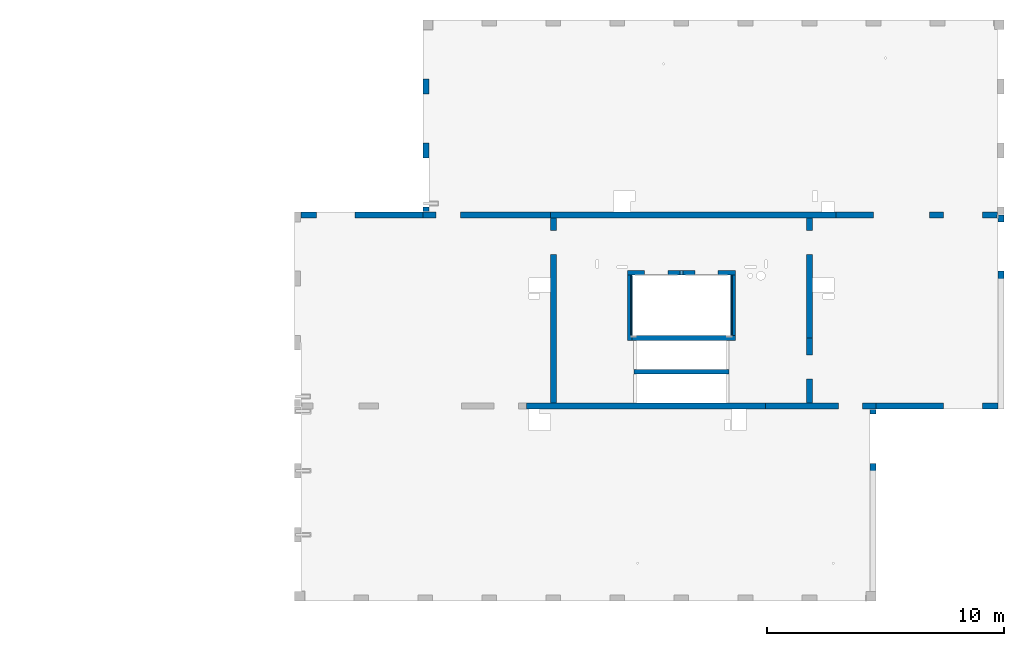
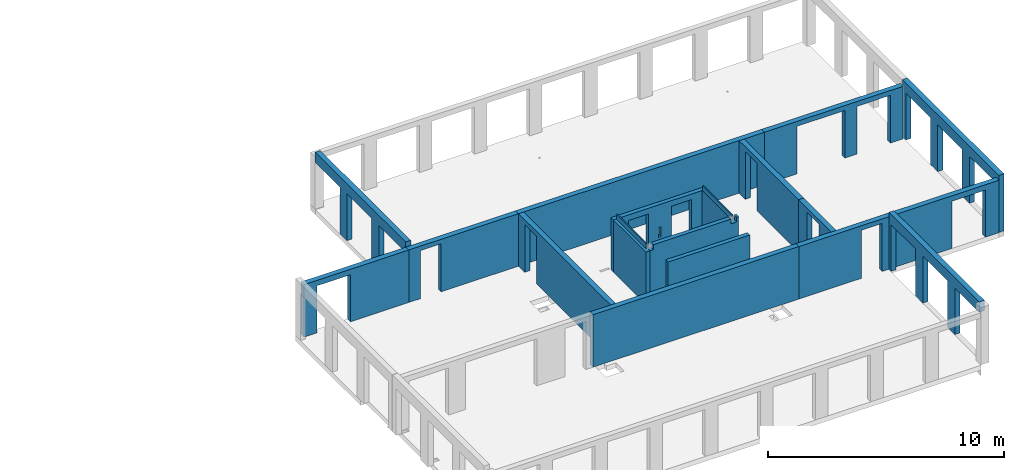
# One storey, part 8 of 13: 20 walls, 23 openings.
"""IFC2X3 building model written with IfcOpenShell, lengths in millimetres."""

from ifc_helpers import new_model, entity, si_unit, converted_unit, derived_unit, direction, frame, frame_2d, origin, origin_2d_with_axis, place, context, subcontext, project, spatial, polyline, rectangle, extrude, clip, bounded_halfspace, material, layer, layer_set, layer_usage, type_object, element, save


model = new_model("IFC2X3")

# Units and contexts
model_context = context("Model", 3, precision=0.01, world=origin(), true_north=direction((6.12303176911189e-17, 1.0)))
body_context = subcontext(model_context, "Body", "Model", "MODEL_VIEW")
ifc_project = project(units=[si_unit("LENGTHUNIT", "METRE", prefix="MILLI"), si_unit("AREAUNIT", "SQUARE_METRE"), si_unit("VOLUMEUNIT", "CUBIC_METRE"), converted_unit("PLANEANGLEUNIT", "DEGREE", entity("IfcRatioMeasure", 0.0174532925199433), si_unit("PLANEANGLEUNIT", "RADIAN"), dimensions=[0, 0, 0, 0, 0, 0, 0]), si_unit("MASSUNIT", "GRAM", prefix="KILO"), derived_unit("MASSDENSITYUNIT", [(si_unit("MASSUNIT", "GRAM", prefix="KILO"), 1), (si_unit("LENGTHUNIT", "METRE"), -3)]), si_unit("TIMEUNIT", "SECOND"), si_unit("FREQUENCYUNIT", "HERTZ"), si_unit("THERMODYNAMICTEMPERATUREUNIT", "DEGREE_CELSIUS"), derived_unit("THERMALTRANSMITTANCEUNIT", [(si_unit("MASSUNIT", "GRAM", prefix="KILO"), 1), (si_unit("THERMODYNAMICTEMPERATUREUNIT", "KELVIN"), -1), (si_unit("TIMEUNIT", "SECOND"), -3)]), derived_unit("VOLUMETRICFLOWRATEUNIT", [(si_unit("LENGTHUNIT", "METRE"), 3), (si_unit("TIMEUNIT", "SECOND"), -1)]), si_unit("ELECTRICCURRENTUNIT", "AMPERE"), si_unit("ELECTRICVOLTAGEUNIT", "VOLT"), si_unit("POWERUNIT", "WATT"), si_unit("FORCEUNIT", "NEWTON", prefix="KILO"), si_unit("ILLUMINANCEUNIT", "LUX"), si_unit("LUMINOUSFLUXUNIT", "LUMEN"), si_unit("LUMINOUSINTENSITYUNIT", "CANDELA"), derived_unit("USERDEFINED", [(si_unit("MASSUNIT", "GRAM", prefix="KILO"), -1), (si_unit("LENGTHUNIT", "METRE"), -2), (si_unit("TIMEUNIT", "SECOND"), 3), (si_unit("LUMINOUSFLUXUNIT", "LUMEN"), 1)]), derived_unit("LINEARVELOCITYUNIT", [(si_unit("LENGTHUNIT", "METRE"), 1), (si_unit("TIMEUNIT", "SECOND"), -1)]), si_unit("PRESSUREUNIT", "PASCAL"), derived_unit("USERDEFINED", [(si_unit("LENGTHUNIT", "METRE"), -2), (si_unit("MASSUNIT", "GRAM", prefix="KILO"), 1), (si_unit("TIMEUNIT", "SECOND"), -2)])], contexts=[model_context])

# Site, building, storey
site_placement = place(None, origin())
site = spatial("IfcSite", under=ifc_project, at=site_placement, Name="Default", CompositionType="ELEMENT")
building_placement = place(site_placement, origin())
building = spatial("IfcBuilding", under=site, at=building_placement, Name="niet gebruiken", CompositionType="ELEMENT")
storey_placement = place(building_placement, frame((0.0, 0.0, 60120.0)))
storey = spatial("IfcBuildingStorey", under=building, at=storey_placement, Name="20 twintigste verdieping", CompositionType="ELEMENT", Elevation=60120.0)

# Wall, opening
ifc_material_1 = material(Name="NLRS_f2_beton ihwg")
ifc_layer_1 = layer(ifc_material_1, 250.0)
ifc_layer_set_1 = layer_set([ifc_layer_1], Name="Basic Wall:NLRS_22.21_WA_beton ihwg d=250_gen")
ifc_layer_usage_1 = layer_usage(ifc_layer_set_1, "AXIS2", "NEGATIVE", 125.0)
wall_type_1 = type_object("IfcWallType", Name="Basic Wall:NLRS_22.21_WA_beton ihwg d=250_gen", PredefinedType="STANDARD", material=ifc_layer_set_1)
wall_1_placement = place(storey_placement, frame((75770.0, 45031.0, -90.0)))
wall_1 = element("IfcWallStandardCase", 1, at=wall_1_placement, inside=storey, type_object=wall_type_1, material=ifc_layer_usage_1, Name="Basic Wall:NLRS_22.21_WA_beton ihwg d=250_gen", ObjectType="Basic Wall:NLRS_22.21_WA_beton ihwg d=250_gen", context=body_context, shape_type="SweptSolid", body=[
    extrude(rectangle(XDim=5130.00000000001, YDim=249.999999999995, at=frame_2d((2565.00000000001, 0.0), x_axis=(-1.0, 0.0))), origin(), (0.0, 0.0, 1.0), 2719.99999999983),
])
opening_1_placement = place(wall_1_placement, origin())
element("IfcOpeningElement", 2, at=opening_1_placement, cuts=wall_1, Name="Basic Wall:NLRS_22.21_WA_beton ihwg d=250_gen", ObjectType="Opening", context=body_context, shape_type="SweptSolid", body=[
    extrude(rectangle(XDim=2440.0, YDim=1640.0, at=frame_2d((0.0, 4.37694325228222e-12), x_axis=(1.0, 0.0))), frame((1460.0, -1649.0, 1220.0), z_axis=(0.0, 1.0, 0.0), x_axis=(0.0, 0.0, 1.0)), (0.0, 0.0, 1.0), 3048.0),
])

ifc_layer_usage_2 = layer_usage(ifc_layer_set_1, "AXIS2", "NEGATIVE", 125.0)
wall_2_placement = place(storey_placement, frame((86400.0, 44906.0, -90.0), z_axis=(0.0, 0.0, 1.0), x_axis=(0.0, -1.0, 0.0)))
wall_2 = element("IfcWallStandardCase", 3, at=wall_2_placement, inside=storey, type_object=wall_type_1, material=ifc_layer_usage_2, Name="Basic Wall:NLRS_22.21_WA_beton ihwg d=250_gen", ObjectType="Basic Wall:NLRS_22.21_WA_beton ihwg d=250_gen", context=body_context, shape_type="SweptSolid", body=[
    extrude(rectangle(XDim=7799.99999999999, YDim=250.000000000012, at=frame_2d((3900.0, 0.0), x_axis=(-1.0, 0.0))), origin(), (0.0, 0.0, 1.0), 2719.99999999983),
])
opening_2_placement = place(wall_2_placement, origin())
element("IfcOpeningElement", 4, at=opening_2_placement, cuts=wall_2, Name="Basic Wall:NLRS_22.21_WA_beton ihwg d=250_gen", ObjectType="Opening", context=body_context, shape_type="SweptSolid", body=[
    extrude(rectangle(XDim=2470.0, YDim=1006.0, at=frame_2d((-4.43378667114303e-12, 0.0), x_axis=(1.0, 0.0))), frame((1027.0, -1649.0, 1235.0), z_axis=(0.0, 1.0, 0.0), x_axis=(0.0, 0.0, 1.0)), (0.0, 0.0, 1.0), 3048.0),
])

ifc_layer_usage_3 = layer_usage(ifc_layer_set_1, "AXIS2", "NEGATIVE", 125.0)
wall_3_placement = place(storey_placement, frame((97200.0, 44906.0, -90.0), z_axis=(0.0, 0.0, 1.0), x_axis=(0.0, -1.0, 0.0)))
wall_3 = element("IfcWallStandardCase", 5, at=wall_3_placement, inside=storey, type_object=wall_type_1, material=ifc_layer_usage_3, Name="Basic Wall:NLRS_22.21_WA_beton ihwg d=250_gen", ObjectType="Basic Wall:NLRS_22.21_WA_beton ihwg d=250_gen", context=body_context, shape_type="SweptSolid", body=[
    extrude(rectangle(XDim=5050.0, YDim=250.000000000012, at=frame_2d((2525.0, -3.05533376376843e-12), x_axis=(-1.0, 0.0))), origin(), (0.0, 0.0, 1.0), 2719.99999999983),
])
opening_3_placement = place(wall_3_placement, origin())
element("IfcOpeningElement", 6, at=opening_3_placement, cuts=wall_3, Name="Basic Wall:NLRS_22.21_WA_beton ihwg d=250_gen", ObjectType="Opening", context=body_context, shape_type="SweptSolid", body=[
    extrude(rectangle(XDim=2470.0, YDim=1006.0, at=frame_2d((-4.43378667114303e-12, 0.0), x_axis=(1.0, 0.0))), frame((1027.0, -1649.0, 1235.0), z_axis=(0.0, 1.0, 0.0), x_axis=(0.0, 0.0, 1.0)), (0.0, 0.0, 1.0), 3048.0),
])

ifc_layer_usage_4 = layer_usage(ifc_layer_set_1, "AXIS2", "NEGATIVE", 125.0)
wall_4_placement = place(storey_placement, frame((80900.0, 45031.0, -90.0)))
wall_4 = element("IfcWallStandardCase", 7, at=wall_4_placement, inside=storey, type_object=wall_type_1, material=ifc_layer_usage_4, Name="Basic Wall:NLRS_22.21_WA_beton ihwg d=250_gen", ObjectType="Basic Wall:NLRS_22.21_WA_beton ihwg d=250_gen", context=body_context, shape_type="SweptSolid", body=[
    extrude(rectangle(XDim=5374.99999999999, YDim=249.999999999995, at=frame_2d((2687.5, 0.0), x_axis=(-1.0, 0.0))), origin(), (0.0, 0.0, 1.0), 2719.99999999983),
])
opening_4_placement = place(wall_4_placement, origin())
element("IfcOpeningElement", 8, at=opening_4_placement, cuts=wall_4, Name="Basic Wall:NLRS_22.21_WA_beton ihwg d=250_gen", ObjectType="Opening", context=body_context, shape_type="SweptSolid", body=[
    extrude(rectangle(XDim=2492.00000000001, YDim=1021.99999999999, at=frame_2d((8.66862137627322e-12, 8.75388650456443e-12), x_axis=(0.0, 1.0))), frame((1075.0, -1399.0, 1246.0), z_axis=(0.0, 1.0, 0.0), x_axis=(-1.0, 0.0, 0.0)), (0.0, 0.0, 1.0), 3048.0),
])

ifc_layer_usage_5 = layer_usage(ifc_layer_set_1, "AXIS2", "NEGATIVE", 125.0)
wall_5_placement = place(storey_placement, frame((100000.0, 36981.0, -90.0)))
wall_5 = element("IfcWallStandardCase", 9, at=wall_5_placement, inside=storey, type_object=wall_type_1, material=ifc_layer_usage_5, Name="Basic Wall:NLRS_22.21_WA_beton ihwg d=250_gen", ObjectType="Basic Wall:NLRS_22.21_WA_beton ihwg d=250_gen", context=body_context, shape_type="SweptSolid", body=[
    extrude(rectangle(XDim=5149.99999999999, YDim=250.000000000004, at=frame_2d((2575.0, 0.0), x_axis=(-1.0, 0.0))), origin(), (0.0, 0.0, 1.0), 2719.99999999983),
])
opening_5_placement = place(wall_5_placement, origin())
element("IfcOpeningElement", 10, at=opening_5_placement, cuts=wall_5, Name="Basic Wall:NLRS_22.21_WA_beton ihwg d=250_gen", ObjectType="Opening", context=body_context, shape_type="SweptSolid", body=[
    extrude(rectangle(XDim=2440.0, YDim=1639.99999999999, at=frame_2d((8.69704308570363e-12, 0.0), x_axis=(0.0, 1.0))), frame((3670.0, -1399.0, 1220.0), z_axis=(0.0, 1.0, 0.0), x_axis=(-1.0, 0.0, 0.0)), (0.0, 0.0, 1.0), 3048.0),
])

# Wall
ifc_layer_usage_6 = layer_usage(ifc_layer_set_1, "AXIS2", "NEGATIVE", 125.0)
wall_6_placement = place(storey_placement, frame((86275.0, 45031.0, -90.0)))
element("IfcWallStandardCase", 11, at=wall_6_placement, inside=storey, type_object=wall_type_1, material=ifc_layer_usage_6, Name="Basic Wall:NLRS_22.21_WA_beton ihwg d=250_gen", ObjectType="Basic Wall:NLRS_22.21_WA_beton ihwg d=250_gen", context=body_context, shape_type="SweptSolid", body=[
    extrude(rectangle(XDim=12050.0000000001, YDim=249.999999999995, at=frame_2d((6025.00000000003, 0.0), x_axis=(-1.0, 0.0))), origin(), (0.0, 0.0, 1.0), 2719.99999999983),
])

# Wall, openings
ifc_layer_usage_7 = layer_usage(ifc_layer_set_1, "AXIS2", "NEGATIVE", 125.0)
wall_7_placement = place(storey_placement, frame((98325.0, 45031.0, -90.0)))
wall_7 = element("IfcWallStandardCase", 12, at=wall_7_placement, inside=storey, type_object=wall_type_1, material=ifc_layer_usage_7, Name="Basic Wall:NLRS_22.21_WA_beton ihwg d=250_gen", ObjectType="Basic Wall:NLRS_22.21_WA_beton ihwg d=250_gen", context=body_context, shape_type="Clipping", body=[
    clip(clip(extrude(rectangle(XDim=6804.99999999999, YDim=249.999999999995, at=frame_2d((3402.5, 0.0), x_axis=(-1.0, 0.0))), origin(), (0.0, 0.0, 1.0), 2719.99999999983), bounded_halfspace(frame((6785.00003298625, 15.0, 2720.0), z_axis=(0.0, 1.0, 0.0), x_axis=(-1.0, 0.0, 0.0)), True, frame((6785.00003298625, 15.0, 2720.0), z_axis=(0.0, 1.0, 0.0), x_axis=(-1.0, 0.0, 0.0)), polyline([(0.0, 0.0), (-19.9999670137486, 0.0), (-19.9999670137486, -2720.0), (0.0, -2720.0), (0.0, 0.0)]))), bounded_halfspace(frame((6785.00003298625, 15.0, 0.0), z_axis=(-1.0, 0.0, 0.0), x_axis=(0.0, 1.0, 0.0)), True, frame((6785.00003298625, 15.0, 0.0), z_axis=(-1.0, 0.0, 0.0), x_axis=(0.0, 1.0, 0.0)), polyline([(0.0, 0.0), (-140.0, 0.0), (-140.0, -2720.0), (0.0, -2720.0), (0.0, 0.0)]))),
])
opening_6_placement = place(wall_7_placement, origin())
element("IfcOpeningElement", 13, at=opening_6_placement, cuts=wall_7, Name="Basic Wall:NLRS_22.21_WA_beton ihwg d=250_gen", ObjectType="Opening", context=body_context, shape_type="SweptSolid", body=[
    extrude(rectangle(XDim=2470.0, YDim=2350.0, at=frame_2d((4.43378667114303e-12, 8.64019966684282e-12), x_axis=(1.0, 0.0))), frame((2750.0, -1649.0, 1235.0), z_axis=(0.0, 1.0, 0.0), x_axis=(0.0, 0.0, 1.0)), (0.0, 0.0, 1.0), 3048.0),
])
opening_7_placement = place(wall_7_placement, origin())
element("IfcOpeningElement", 14, at=opening_7_placement, cuts=wall_7, Name="Basic Wall:NLRS_22.21_WA_beton ihwg d=250_gen", ObjectType="Opening", context=body_context, shape_type="SweptSolid", body=[
    extrude(rectangle(XDim=2470.0, YDim=1640.00000000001, at=frame_2d((4.43378667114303e-12, 0.0), x_axis=(1.0, 0.0))), frame((5345.0, -1649.0, 1235.0), z_axis=(0.0, 1.0, 0.0), x_axis=(0.0, 0.0, 1.0)), (0.0, 0.0, 1.0), 3048.0),
])

# Wall, opening
ifc_layer_usage_8 = layer_usage(ifc_layer_set_1, "AXIS2", "NEGATIVE", 125.0)
wall_8_placement = place(storey_placement, frame((97200.0, 39856.0, -90.0), z_axis=(0.0, 0.0, 1.0), x_axis=(0.0, -1.0, 0.0)))
wall_8 = element("IfcWallStandardCase", 15, at=wall_8_placement, inside=storey, type_object=wall_type_1, material=ifc_layer_usage_8, Name="Basic Wall:NLRS_22.21_WA_beton ihwg d=250_gen", ObjectType="Basic Wall:NLRS_22.21_WA_beton ihwg d=250_gen", context=body_context, shape_type="SweptSolid", body=[
    extrude(rectangle(XDim=2749.99999999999, YDim=250.000000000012, at=frame_2d((1375.0, 3.05533376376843e-12), x_axis=(-1.0, 0.0))), origin(), (0.0, 0.0, 1.0), 2719.99999999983),
])
opening_8_placement = place(wall_8_placement, origin())
element("IfcOpeningElement", 16, at=opening_8_placement, cuts=wall_8, Name="Basic Wall:NLRS_22.21_WA_beton ihwg d=250_gen", ObjectType="Opening", context=body_context, shape_type="SweptSolid", body=[
    extrude(rectangle(XDim=2492.00000000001, YDim=1022.0, at=frame_2d((0.0, -2.1600499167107e-12), x_axis=(1.0, 0.0))), frame((1225.0, -1649.0, 1246.0), z_axis=(0.0, 1.0, 0.0), x_axis=(0.0, 0.0, 1.0)), (0.0, 0.0, 1.0), 3048.0),
])

ifc_layer_usage_9 = layer_usage(ifc_layer_set_1, "AXIS2", "NEGATIVE", 125.0)
wall_9_placement = place(storey_placement, frame((95350.0, 36981.0, -90.0)))
wall_9 = element("IfcWallStandardCase", 17, at=wall_9_placement, inside=storey, type_object=wall_type_1, material=ifc_layer_usage_9, Name="Basic Wall:NLRS_22.21_WA_beton ihwg d=250_gen", ObjectType="Basic Wall:NLRS_22.21_WA_beton ihwg d=250_gen", context=body_context, shape_type="SweptSolid", body=[
    extrude(rectangle(XDim=4650.00000000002, YDim=250.000000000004, at=frame_2d((2325.00000000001, 0.0), x_axis=(-1.0, 0.0))), origin(), (0.0, 0.0, 1.0), 2719.99999999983),
])
opening_9_placement = place(wall_9_placement, origin())
element("IfcOpeningElement", 18, at=opening_9_placement, cuts=wall_9, Name="Basic Wall:NLRS_22.21_WA_beton ihwg d=250_gen", ObjectType="Opening", context=body_context, shape_type="SweptSolid", body=[
    extrude(rectangle(XDim=2492.00000000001, YDim=1021.99999999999, at=frame_2d((0.0, 8.66862137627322e-12), x_axis=(1.0, 0.0))), frame((3575.0, -1649.0, 1246.0), z_axis=(0.0, 1.0, 0.0), x_axis=(0.0, 0.0, 1.0)), (0.0, 0.0, 1.0), 3048.0),
])

# Wall
ifc_layer_usage_10 = layer_usage(ifc_layer_set_1, "AXIS2", "NEGATIVE", 125.0)
wall_10_placement = place(storey_placement, frame((85275.0, 36981.0, -90.0)))
element("IfcWallStandardCase", 19, at=wall_10_placement, inside=storey, type_object=wall_type_1, material=ifc_layer_usage_10, Name="Basic Wall:NLRS_22.21_WA_beton ihwg d=250_gen", ObjectType="Basic Wall:NLRS_22.21_WA_beton ihwg d=250_gen", context=body_context, shape_type="SweptSolid", body=[
    extrude(rectangle(XDim=10075.0, YDim=250.000000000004, at=frame_2d((5037.5, 0.0), x_axis=(-1.0, 0.0))), origin(), (0.0, 0.0, 1.0), 2719.99999999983),
])

# Wall, openings
ifc_material_2 = material(Name="NLRS_f2_beton prefab")
ifc_layer_2 = layer(ifc_material_2, 250.0)
ifc_layer_set_2 = layer_set([ifc_layer_2], Name="Basic Wall:NLRS_21.21_WA_beton prefab d=250_gen")
ifc_layer_usage_11 = layer_usage(ifc_layer_set_2, "AXIS2", "NEGATIVE", 125.0)
wall_type_2 = type_object("IfcWallType", Name="Basic Wall:NLRS_21.21_WA_beton prefab d=250_gen", PredefinedType="STANDARD", material=ifc_layer_set_2)
wall_11_placement = place(storey_placement, frame((81025.0, 52846.0, -70.0), z_axis=(0.0, 0.0, 1.0), x_axis=(0.0, -1.0, 0.0)))
wall_11 = element("IfcWallStandardCase", 20, at=wall_11_placement, inside=storey, type_object=wall_type_2, material=ifc_layer_usage_11, Name="Basic Wall:NLRS_21.21_WA_beton prefab d=250_gen", ObjectType="Basic Wall:NLRS_21.21_WA_beton prefab d=250_gen", context=body_context, shape_type="SweptSolid", body=[
    extrude(rectangle(XDim=7670.00000000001, YDim=250.000000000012, at=frame_2d((3835.0, 0.0), x_axis=(-1.0, 0.0))), origin(), (0.0, 0.0, 1.0), 2950.00000000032),
])
opening_10_placement = place(wall_11_placement, origin())
element("IfcOpeningElement", 21, at=opening_10_placement, cuts=wall_11, Name="Basic Wall:NLRS_21.21_WA_beton prefab d=250_gen", ObjectType="Opening", context=body_context, shape_type="SweptSolid", body=[
    extrude(rectangle(XDim=2420.0, YDim=2080.0, at=frame_2d((0.0, 0.0), x_axis=(0.0, 1.0))), frame((1040.0, -1399.0, 1210.0), z_axis=(0.0, 1.0, 0.0), x_axis=(-1.0, 0.0, 0.0)), (0.0, 0.0, 1.0), 3048.0),
])
opening_11_placement = place(wall_11_placement, origin())
element("IfcOpeningElement", 22, at=opening_11_placement, cuts=wall_11, Name="Basic Wall:NLRS_21.21_WA_beton prefab d=250_gen", ObjectType="Opening", context=body_context, shape_type="SweptSolid", body=[
    extrude(rectangle(XDim=2420.0, YDim=2080.0, at=frame_2d((0.0, 0.0), x_axis=(0.0, 1.0))), frame((3740.0, -1399.0, 1210.0), z_axis=(0.0, 1.0, 0.0), x_axis=(-1.0, 0.0, 0.0)), (0.0, 0.0, 1.0), 3048.0),
])
opening_12_placement = place(wall_11_placement, origin())
element("IfcOpeningElement", 23, at=opening_12_placement, cuts=wall_11, Name="Basic Wall:NLRS_21.21_WA_beton prefab d=250_gen", ObjectType="Opening", context=body_context, shape_type="SweptSolid", body=[
    extrude(rectangle(XDim=2420.0, YDim=2080.0, at=frame_2d((0.0, 0.0), x_axis=(0.0, 1.0))), frame((6440.0, -1399.0, 1210.0), z_axis=(0.0, 1.0, 0.0), x_axis=(-1.0, 0.0, 0.0)), (0.0, 0.0, 1.0), 3048.0),
])

ifc_layer_usage_12 = layer_usage(ifc_layer_set_2, "AXIS2", "NEGATIVE", 125.0)
wall_12_placement = place(storey_placement, frame((105275.0, 45046.0, -70.0), z_axis=(0.0, 0.0, 1.0), x_axis=(0.0, -1.0, 0.0)))
wall_12 = element("IfcWallStandardCase", 24, at=wall_12_placement, inside=storey, type_object=wall_type_2, material=ifc_layer_usage_12, Name="Basic Wall:NLRS_21.21_WA_beton prefab d=250_gen", ObjectType="Basic Wall:NLRS_21.21_WA_beton prefab d=250_gen", context=body_context, shape_type="SweptSolid", body=[
    extrude(rectangle(XDim=8189.99999999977, YDim=250.000000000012, at=frame_2d((4094.99999999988, 0.0), x_axis=(-1.0, 0.0))), origin(), (0.0, 0.0, 1.0), 2950.00000000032),
])
opening_13_placement = place(wall_12_placement, origin())
element("IfcOpeningElement", 25, at=opening_13_placement, cuts=wall_12, Name="Basic Wall:NLRS_21.21_WA_beton prefab d=250_gen", ObjectType="Opening", context=body_context, shape_type="SweptSolid", body=[
    extrude(rectangle(XDim=2420.0, YDim=2080.0, at=frame_2d((0.0, 0.0), x_axis=(0.0, 1.0))), frame((1340.0, -1399.0, 1210.0), z_axis=(0.0, 1.0, 0.0), x_axis=(-1.0, 0.0, 0.0)), (0.0, 0.0, 1.0), 3048.0),
])
opening_14_placement = place(wall_12_placement, origin())
element("IfcOpeningElement", 26, at=opening_14_placement, cuts=wall_12, Name="Basic Wall:NLRS_21.21_WA_beton prefab d=250_gen", ObjectType="Opening", context=body_context, shape_type="SweptSolid", body=[
    extrude(rectangle(XDim=2420.0, YDim=2080.0, at=frame_2d((0.0, 0.0), x_axis=(0.0, 1.0))), frame((4040.0, -1399.0, 1210.0), z_axis=(0.0, 1.0, 0.0), x_axis=(-1.0, 0.0, 0.0)), (0.0, 0.0, 1.0), 3048.0),
])
opening_15_placement = place(wall_12_placement, origin())
element("IfcOpeningElement", 27, at=opening_15_placement, cuts=wall_12, Name="Basic Wall:NLRS_21.21_WA_beton prefab d=250_gen", ObjectType="Opening", context=body_context, shape_type="SweptSolid", body=[
    extrude(rectangle(XDim=2420.0, YDim=2080.0, at=frame_2d((0.0, 0.0), x_axis=(0.0, 1.0))), frame((6740.0, -1399.0, 1210.0), z_axis=(0.0, 1.0, 0.0), x_axis=(-1.0, 0.0, 0.0)), (0.0, 0.0, 1.0), 3048.0),
])

ifc_layer_usage_13 = layer_usage(ifc_layer_set_2, "AXIS2", "NEGATIVE", 125.0)
wall_13_placement = place(storey_placement, frame((99875.0, 29166.0, -70.0), z_axis=(0.0, 0.0, 1.0), x_axis=(0.0, 1.0, 0.0)))
wall_13 = element("IfcWallStandardCase", 28, at=wall_13_placement, inside=storey, type_object=wall_type_2, material=ifc_layer_usage_13, Name="Basic Wall:NLRS_21.21_WA_beton prefab d=250_gen", ObjectType="Basic Wall:NLRS_21.21_WA_beton prefab d=250_gen", context=body_context, shape_type="SweptSolid", body=[
    extrude(rectangle(XDim=7669.99999999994, YDim=250.000000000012, at=frame_2d((3834.99999999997, 0.0), x_axis=(-1.0, 0.0))), origin(), (0.0, 0.0, 1.0), 2949.99999999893),
])
opening_16_placement = place(wall_13_placement, origin())
element("IfcOpeningElement", 29, at=opening_16_placement, cuts=wall_13, Name="Basic Wall:NLRS_21.21_WA_beton prefab d=250_gen", ObjectType="Opening", context=body_context, shape_type="SweptSolid", body=[
    extrude(rectangle(XDim=2420.0, YDim=2080.0, at=frame_2d((2.1600499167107e-12, 0.0), x_axis=(0.0, 1.0))), frame((1040.0, -1399.0, 1210.0), z_axis=(0.0, 1.0, 0.0), x_axis=(-1.0, 0.0, 0.0)), (0.0, 0.0, 1.0), 3048.0),
])
opening_17_placement = place(wall_13_placement, origin())
element("IfcOpeningElement", 30, at=opening_17_placement, cuts=wall_13, Name="Basic Wall:NLRS_21.21_WA_beton prefab d=250_gen", ObjectType="Opening", context=body_context, shape_type="SweptSolid", body=[
    extrude(rectangle(XDim=2420.0, YDim=2080.0, at=frame_2d((2.1600499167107e-12, 0.0), x_axis=(0.0, 1.0))), frame((6440.0, -1399.0, 1210.0), z_axis=(0.0, 1.0, 0.0), x_axis=(-1.0, 0.0, 0.0)), (0.0, 0.0, 1.0), 3048.0),
])
opening_18_placement = place(wall_13_placement, origin())
element("IfcOpeningElement", 31, at=opening_18_placement, cuts=wall_13, Name="Basic Wall:NLRS_21.21_WA_beton prefab d=250_gen", ObjectType="Opening", context=body_context, shape_type="SweptSolid", body=[
    extrude(rectangle(XDim=2420.0, YDim=2080.0, at=frame_2d((2.1600499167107e-12, 0.0), x_axis=(0.0, 1.0))), frame((3740.0, -1399.0, 1210.0), z_axis=(0.0, 1.0, 0.0), x_axis=(-1.0, 0.0, 0.0)), (0.0, 0.0, 1.0), 3048.0),
])

# Wall
ifc_layer_3 = layer(ifc_material_2, 200.0)
ifc_layer_set_3 = layer_set([ifc_layer_3], Name="Basic Wall:NLRS_21.21_WA_beton prefab d=200_gen")
ifc_layer_usage_14 = layer_usage(ifc_layer_set_3, "AXIS2", "NEGATIVE", 100.0)
wall_type_3 = type_object("IfcWallType", Name="Basic Wall:NLRS_21.21_WA_beton prefab d=200_gen", PredefinedType="STANDARD", material=ifc_layer_set_3)
wall_14_placement = place(storey_placement, frame((89800.0, 38426.0, -70.0)))
element("IfcWallStandardCase", 32, at=wall_14_placement, inside=storey, type_object=wall_type_3, material=ifc_layer_usage_14, Name="Basic Wall:NLRS_21.21_WA_beton prefab d=200_gen", ObjectType="Basic Wall:NLRS_21.21_WA_beton prefab d=200_gen", context=body_context, shape_type="SweptSolid", body=[
    extrude(rectangle(XDim=3999.99999999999, YDim=199.999999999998, at=frame_2d((2000.0, 0.0), x_axis=(-1.0, 0.0))), origin(), (0.0, 0.0, 1.0), 2950.00000000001),
])

# Wall, openings
ifc_layer_4 = layer(ifc_material_2, 200.0)
ifc_layer_set_4 = layer_set([ifc_layer_4], Name="Basic Wall:NLRS_22.21_WA_beton prefab d=200_gen")
ifc_layer_usage_15 = layer_usage(ifc_layer_set_4, "AXIS2", "NEGATIVE", 100.0)
wall_type_4 = type_object("IfcWallType", Name="Basic Wall:NLRS_22.21_WA_beton prefab d=200_gen", PredefinedType="STANDARD", material=ifc_layer_set_4)
wall_15_placement = place(storey_placement, frame((89525.0, 42596.0, -70.0)))
wall_15 = element("IfcWallStandardCase", 33, at=wall_15_placement, inside=storey, type_object=wall_type_4, material=ifc_layer_usage_15, Name="Basic Wall:NLRS_22.21_WA_beton prefab d=200_gen", ObjectType="Basic Wall:NLRS_22.21_WA_beton prefab d=200_gen", context=body_context, shape_type="SweptSolid", body=[
    extrude(rectangle(XDim=4550.00000000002, YDim=200.000000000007, at=frame_2d((2275.00000000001, 7.8159700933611e-13), x_axis=(-1.0, 0.0))), origin(), (0.0, 0.0, 1.0), 2700.00000000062),
])
opening_19_placement = place(wall_15_placement, origin())
element("IfcOpeningElement", 34, at=opening_19_placement, cuts=wall_15, Name="Basic Wall:NLRS_22.21_WA_beton prefab d=200_gen", ObjectType="Opening", context=body_context, shape_type="SweptSolid", body=[
    extrude(rectangle(XDim=2430.0, YDim=980.000000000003, at=frame_2d((0.0, -8.66862137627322e-12), x_axis=(1.0, 0.0))), frame((1219.99984910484, -1624.0, 1195.0), z_axis=(0.0, 1.0, 0.0), x_axis=(0.0, 0.0, 1.0)), (0.0, 0.0, 1.0), 3048.0),
])
opening_20_placement = place(wall_15_placement, origin())
element("IfcOpeningElement", 35, at=opening_20_placement, cuts=wall_15, Name="Basic Wall:NLRS_22.21_WA_beton prefab d=200_gen", ObjectType="Opening", context=body_context, shape_type="SweptSolid", body=[
    extrude(rectangle(XDim=2430.0, YDim=980.000000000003, at=frame_2d((0.0, -8.66862137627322e-12), x_axis=(1.0, 0.0))), frame((3329.99984910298, -1624.0, 1195.0), z_axis=(0.0, 1.0, 0.0), x_axis=(0.0, 0.0, 1.0)), (0.0, 0.0, 1.0), 3048.0),
])
opening_21_placement = place(wall_15_placement, origin())
element("IfcOpeningElement", 36, at=opening_21_placement, cuts=wall_15, Name="Basic Wall:NLRS_22.21_WA_beton prefab d=200_gen", ObjectType="Opening", context=body_context, shape_type="SweptSolid", body=[
    extrude(rectangle(XDim=505.000000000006, YDim=135.000000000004, at=frame_2d((-4.33431068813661e-12, -8.66151594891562e-12), x_axis=(1.0, 0.0))), frame((2275.0, -1624.0, 1272.50000000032), z_axis=(0.0, 1.0, 0.0), x_axis=(0.0, 0.0, 1.0)), (0.0, 0.0, 1.0), 3048.0),
])

# Wall
ifc_layer_usage_16 = layer_usage(ifc_layer_set_4, "AXIS2", "NEGATIVE", 100.0)
wall_16_placement = place(storey_placement, frame((89625.0, 42496.0, -70.0), z_axis=(0.0, 0.0, 1.0), x_axis=(0.0, -1.0, 0.0)))
element("IfcWallStandardCase", 37, at=wall_16_placement, inside=storey, type_object=wall_type_4, material=ifc_layer_usage_16, Name="Basic Wall:NLRS_22.21_WA_beton prefab d=200_gen", ObjectType="Basic Wall:NLRS_22.21_WA_beton prefab d=200_gen", context=body_context, shape_type="SweptSolid", body=[
    extrude(rectangle(XDim=2749.99999999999, YDim=199.999999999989, at=frame_2d((1375.0, 0.0), x_axis=(-1.0, 0.0))), origin(), (0.0, 0.0, 1.0), 2700.00000000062),
])

# Wall, openings
ifc_layer_usage_17 = layer_usage(ifc_layer_set_4, "AXIS2", "NEGATIVE", 100.0)
wall_17_placement = place(storey_placement, frame((94075.0, 39846.0, -70.0), z_axis=(0.0, 0.0, 1.0), x_axis=(-1.0, 0.0, 0.0)))
wall_17 = element("IfcWallStandardCase", 38, at=wall_17_placement, inside=storey, type_object=wall_type_4, material=ifc_layer_usage_17, Name="Basic Wall:NLRS_22.21_WA_beton prefab d=200_gen", ObjectType="Basic Wall:NLRS_22.21_WA_beton prefab d=200_gen", context=body_context, shape_type="SweptSolid", body=[
    extrude(rectangle(XDim=4350.00000000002, YDim=200.000000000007, at=frame_2d((2175.00000000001, 0.0), x_axis=(-1.0, 0.0))), origin(), (0.0, 0.0, 1.0), 2950.00000000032),
])
opening_22_placement = place(wall_17_placement, origin())
element("IfcOpeningElement", 39, at=opening_22_placement, cuts=wall_17, Name="Basic Wall:NLRS_22.21_WA_beton prefab d=200_gen", ObjectType="Opening", context=body_context, shape_type="SweptSolid", body=[
    extrude(rectangle(XDim=249.999999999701, YDim=274.999934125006, at=origin_2d_with_axis()), frame((4312.50003293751, 100.0, 2825.0), z_axis=(0.0, -1.0, 0.0), x_axis=(0.0, 0.0, 1.0)), (0.0, 0.0, 1.0), 200.0),
])
opening_23_placement = place(wall_17_placement, origin())
element("IfcOpeningElement", 40, at=opening_23_placement, cuts=wall_17, Name="Basic Wall:NLRS_22.21_WA_beton prefab d=200_gen", ObjectType="Opening", context=body_context, shape_type="SweptSolid", body=[
    extrude(rectangle(XDim=249.999999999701, YDim=275.000032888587, at=frame_2d((0.0, 0.0), x_axis=(0.0, 1.0))), frame((237.500016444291, 100.0, 2825.0), z_axis=(0.0, -1.0, 0.0), x_axis=(-1.0, 0.0, 0.0)), (0.0, 0.0, 1.0), 200.0),
])

# Walls
ifc_layer_usage_18 = layer_usage(ifc_layer_set_4, "AXIS2", "NEGATIVE", 100.0)
wall_18_placement = place(storey_placement, frame((93975.0, 39946.0, -70.0), z_axis=(0.0, 0.0, 1.0), x_axis=(0.0, 1.0, 0.0)))
element("IfcWallStandardCase", 41, at=wall_18_placement, inside=storey, type_object=wall_type_4, material=ifc_layer_usage_18, Name="Basic Wall:NLRS_22.21_WA_beton prefab d=200_gen", ObjectType="Basic Wall:NLRS_22.21_WA_beton prefab d=200_gen", context=body_context, shape_type="SweptSolid", body=[
    extrude(rectangle(XDim=2549.99999999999, YDim=199.999999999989, at=frame_2d((1275.0, 0.0), x_axis=(-1.0, 0.0))), origin(), (0.0, 0.0, 1.0), 2700.00000000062),
])
ifc_layer_5 = layer(ifc_material_2, 60.0)
ifc_layer_set_5 = layer_set([ifc_layer_5], Name="Basic Wall:NLRS_22.21_WA_beton prefab d=60_gen")
ifc_layer_usage_19 = layer_usage(ifc_layer_set_5, "AXIS2", "NEGATIVE", 30.0)
wall_type_5 = type_object("IfcWallType", Name="Basic Wall:NLRS_22.21_WA_beton prefab d=60_gen", PredefinedType="STANDARD", material=ifc_layer_set_5)
wall_19_placement = place(storey_placement, frame((89695.0, 42476.0, 2630.0), z_axis=(0.0, 0.0, 1.0), x_axis=(0.0, -1.0, 0.0)))
element("IfcWallStandardCase", 42, at=wall_19_placement, inside=storey, type_object=wall_type_5, material=ifc_layer_usage_19, Name="Basic Wall:NLRS_22.21_WA_beton prefab d=60_gen", ObjectType="Basic Wall:NLRS_22.21_WA_beton prefab d=60_gen", context=body_context, shape_type="SweptSolid", body=[
    extrude(rectangle(XDim=2510.00000000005, YDim=59.9999999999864, at=frame_2d((1255.00000000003, 0.0), x_axis=(-1.0, 0.0))), origin(), (0.0, 0.0, 1.0), 250.000000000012),
])
ifc_layer_usage_20 = layer_usage(ifc_layer_set_5, "AXIS2", "POSITIVE", -30.0)
wall_20_placement = place(storey_placement, frame((93905.0, 42476.0, 2630.0), z_axis=(0.0, 0.0, 1.0), x_axis=(0.0, -1.0, 0.0)))
element("IfcWallStandardCase", 43, at=wall_20_placement, inside=storey, type_object=wall_type_5, material=ifc_layer_usage_20, Name="Basic Wall:NLRS_22.21_WA_beton prefab d=60_gen", ObjectType="Basic Wall:NLRS_22.21_WA_beton prefab d=60_gen", context=body_context, shape_type="SweptSolid", body=[
    extrude(rectangle(XDim=2510.00000000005, YDim=59.9999999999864, at=frame_2d((1255.00000000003, 0.0), x_axis=(-1.0, 0.0))), origin(), (0.0, 0.0, 1.0), 250.000000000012),
])

save(model, "model.ifc")
